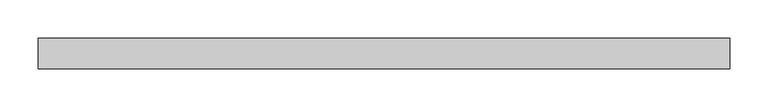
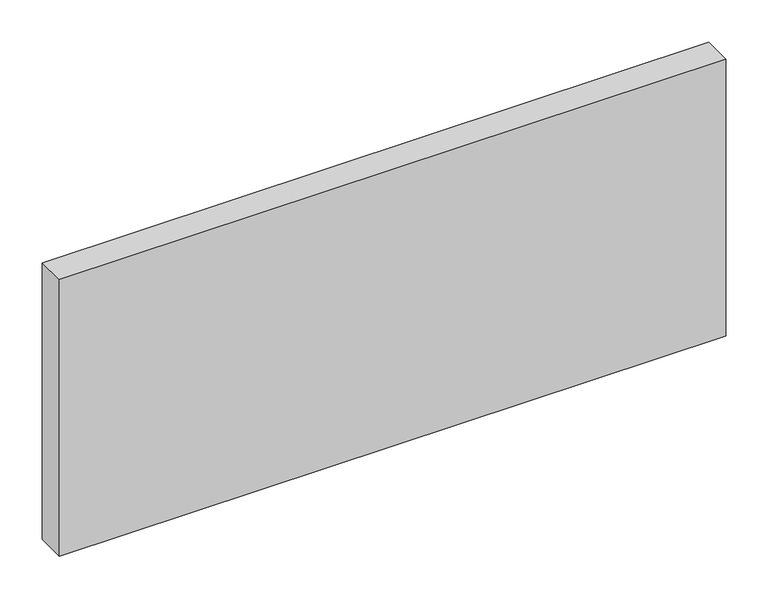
"""IFC4 building model written with IfcOpenShell, lengths in millimetres: plate geometry, Panneau système vide : Epaiss. 4cm."""

from ifc_helpers import new_model, si_unit, origin, origin_with_axes, place, context, project, spatial, polyline, outline, extrude, source, transform, mapped, element, save


def plate_247a1134(model_context):
    return source(origin(), model_context, "Body", "SweptSolid", [
        extrude(outline(polyline([(453.0, -20.0), (-453.0, -20.0), (-453.0, 20.0), (453.0, 20.0), (453.0, -20.0)])), origin_with_axes(), (0.0, 0.0, 1.0), 398.0),
    ])


if __name__ == "__main__":
    model = new_model("IFC4")
    model_context = context("Model", 3, world=origin())
    ifc_project = project(units=[si_unit("LENGTHUNIT", "METRE", prefix="MILLI")], contexts=[model_context])
    site = spatial("IfcSite", under=ifc_project)
    building = spatial("IfcBuilding", under=site)
    placement = place(None, origin())
    plate_shape = plate_247a1134(model_context)
    element("IfcPlate", 1, ObjectType="Panneau système vide : Epaiss. 4cm", at=placement, inside=building, context=model_context, shape_type="MappedRepresentation", body=[
        mapped(plate_shape, transform((0.0, 0.0, 0.0), x_axis=(1.0, 0.0, 0.0), y_axis=(0.0, 1.0, 0.0), z_axis=(0.0, 0.0, 1.0))),
    ])
    save(model, "model.ifc")
